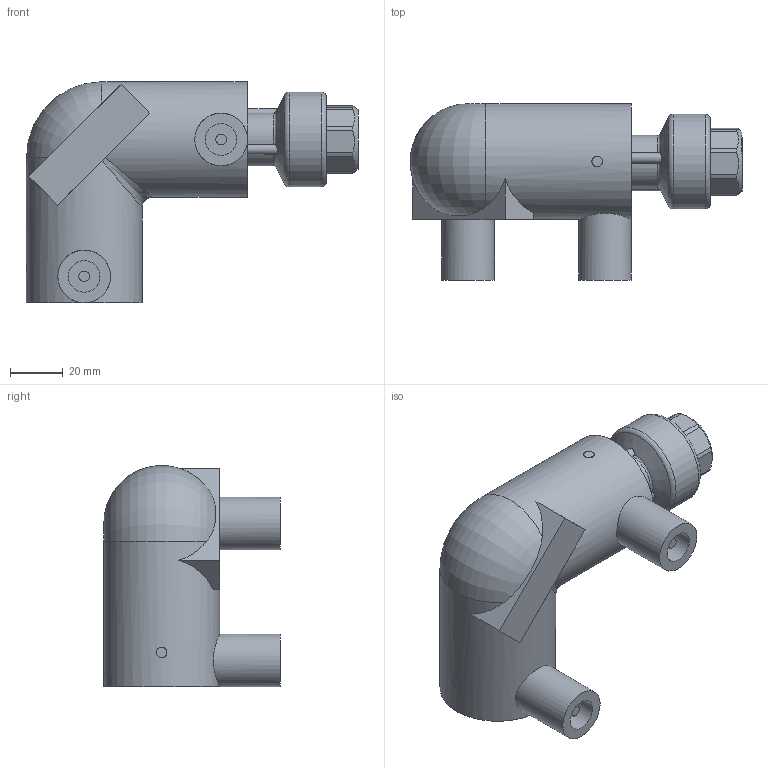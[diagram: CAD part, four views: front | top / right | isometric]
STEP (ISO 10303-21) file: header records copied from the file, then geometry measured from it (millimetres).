
FILE_DESCRIPTION(/* description */ ('Unknown'),/* implementation_level */ '2;1');
FILE_NAME(/* name */ 'GE9TFP020C',/* time_stamp */ '2021-11-10T15:58:47+01:00',/* author */ ('Unknown'),/* organization */ ('Unknown'),/* preprocessor_version */ 'ST-DEVELOPER v16.7',/* originating_system */ 'Solid Edge',/* authorisation */ 'Unknown');
FILE_SCHEMA (('AUTOMOTIVE_DESIGN {1 0 10303 214 3 1 1}'));
Length unit declared in the file: millimetre
Products named in the file (5): GE9TFP020C; GE9P020C; RTOFP020C; Parte PE 020; IOF020
Assembly tree (4 placements, depth 3):
  GE9TFP020C
    GE9P020C
    RTOFP020C
      Parte PE 020
      IOF020
Bounding box: 126.1 x 67 x 84.1 mm (x, y, z)
Volume: 185053.6 mm3; surface area: 47901 mm2
Topology: 3 solids, 3 shells, 234 faces, 573 edges, 353 vertices
Faces by surface type: plane 114, cylinder 62, torus 38, bspline 16, cone 4
Full cylindrical faces by diameter (mm): 4 x4, 12 x2, 14 x1, 17 x2, 18.5 x3, 18.631 x1, 20 x5, 21.5 x2, 25 x4, 26.4 x2, 29 x8, 36 x1, 44 x2
Entity records: 7547 total; most frequent: CARTESIAN_POINT 1530, DIRECTION 1146, ORIENTED_EDGE 984, EDGE_CURVE 492, AXIS2_PLACEMENT_3D 482, VERTEX_POINT 332, EDGE_LOOP 308, FACE_BOUND 308
